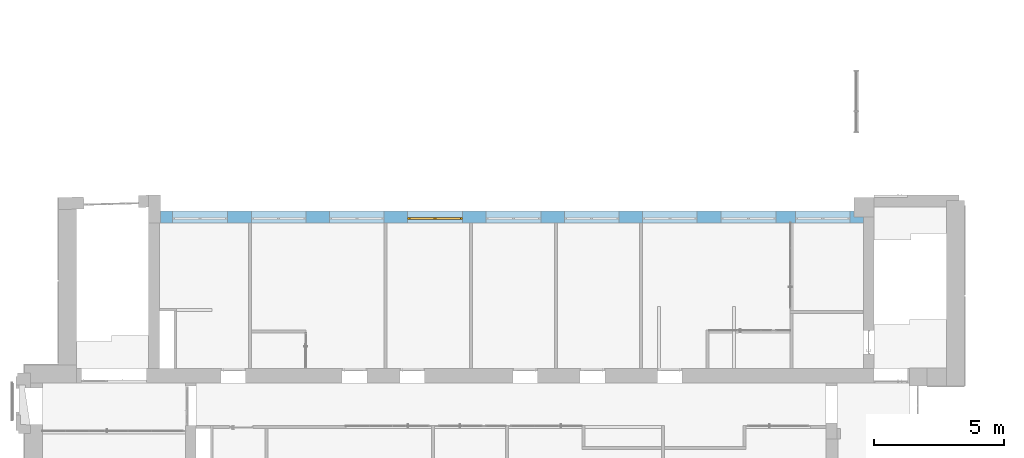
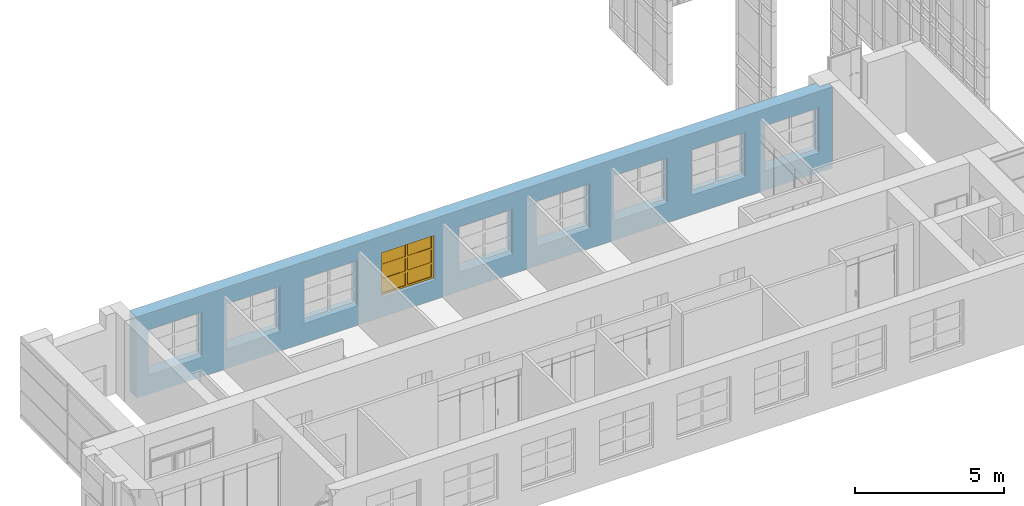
# One storey, part 62 of 73: 1 window, 9 openings, plus 1 element that does not belong to this part.
"""IFC2X3 building model written with IfcOpenShell, lengths in millimetres."""

from ifc_helpers import new_model, entity, si_unit, converted_unit, derived_unit, direction, frame, frame_2d, origin, origin_2d_with_axis, place, context, subcontext, project, spatial, polyline, rectangle, outline, extrude, face_set, surface_model, source, transform, mapped, material, material_list, layer, layer_set, layer_usage, type_object, type_shapes, element, fill, save


model = new_model("IFC2X3")

# Units and contexts
model_context = context("Model", 3, precision=0.01, world=origin(), true_north=direction((6.12303176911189e-17, 1.0)))
body_context = subcontext(model_context, "Body", "Model", "MODEL_VIEW")
ifc_project = project(units=[si_unit("LENGTHUNIT", "METRE", prefix="MILLI"), si_unit("AREAUNIT", "SQUARE_METRE"), si_unit("VOLUMEUNIT", "CUBIC_METRE"), converted_unit("PLANEANGLEUNIT", "DEGREE", entity("IfcRatioMeasure", 0.0174532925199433), si_unit("PLANEANGLEUNIT", "RADIAN"), dimensions=[0, 0, 0, 0, 0, 0, 0]), si_unit("MASSUNIT", "GRAM", prefix="KILO"), derived_unit("MASSDENSITYUNIT", [(si_unit("MASSUNIT", "GRAM", prefix="KILO"), 1), (si_unit("LENGTHUNIT", "METRE"), -3)]), si_unit("TIMEUNIT", "SECOND"), si_unit("FREQUENCYUNIT", "HERTZ"), si_unit("THERMODYNAMICTEMPERATUREUNIT", "DEGREE_CELSIUS"), derived_unit("THERMALTRANSMITTANCEUNIT", [(si_unit("MASSUNIT", "GRAM", prefix="KILO"), 1), (si_unit("THERMODYNAMICTEMPERATUREUNIT", "KELVIN"), -1), (si_unit("TIMEUNIT", "SECOND"), -3)]), derived_unit("VOLUMETRICFLOWRATEUNIT", [(si_unit("LENGTHUNIT", "METRE"), 3), (si_unit("TIMEUNIT", "SECOND"), -1)]), si_unit("ELECTRICCURRENTUNIT", "AMPERE"), si_unit("ELECTRICVOLTAGEUNIT", "VOLT"), si_unit("POWERUNIT", "WATT"), si_unit("FORCEUNIT", "NEWTON", prefix="KILO"), si_unit("ILLUMINANCEUNIT", "LUX"), si_unit("LUMINOUSFLUXUNIT", "LUMEN"), si_unit("LUMINOUSINTENSITYUNIT", "CANDELA"), derived_unit("USERDEFINED", [(si_unit("MASSUNIT", "GRAM", prefix="KILO"), -1), (si_unit("LENGTHUNIT", "METRE"), -2), (si_unit("TIMEUNIT", "SECOND"), 3), (si_unit("LUMINOUSFLUXUNIT", "LUMEN"), 1)]), derived_unit("LINEARVELOCITYUNIT", [(si_unit("LENGTHUNIT", "METRE"), 1), (si_unit("TIMEUNIT", "SECOND"), -1)]), si_unit("PRESSUREUNIT", "PASCAL"), derived_unit("USERDEFINED", [(si_unit("LENGTHUNIT", "METRE"), -2), (si_unit("MASSUNIT", "GRAM", prefix="KILO"), 1), (si_unit("TIMEUNIT", "SECOND"), -2)])], contexts=[model_context])

# Site, building, storey
site_placement = place(None, frame((-151.875543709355, 2715.0, 0.0)))
site = spatial("IfcSite", under=ifc_project, at=site_placement, Name="Surface", CompositionType="ELEMENT")
building_placement = place(site_placement, origin())
building = spatial("IfcBuilding", under=site, at=building_placement, CompositionType="ELEMENT")
storey_placement = place(building_placement, frame((0.0, 0.0, 6730.43000000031)))
storey = spatial("IfcBuildingStorey", under=building, at=storey_placement, Name="3 korrus", CompositionType="ELEMENT", Elevation=6730.43000000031)

# Wall, openings, window
ifc_material_1 = material(Name="Brick, Common")
ifc_layer_1 = layer(ifc_material_1, 440.0)
ifc_material_2 = material(Name="__Kips GN13_tava")
ifc_layer_2 = layer(ifc_material_2, 20.0)
ifc_layer_set = layer_set([ifc_layer_1, ifc_layer_2], Name="Basic Wall:VS-1")
ifc_layer_usage = layer_usage(ifc_layer_set, "AXIS2", "POSITIVE", -230.0)
wall_type = type_object("IfcWallType", Name="Basic Wall:VS-1", PredefinedType="STANDARD", material=ifc_layer_set)
wall_placement = place(storey_placement, frame((31972.6162682, 12380.0, 0.00203353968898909), z_axis=(0.0, 0.0, 1.0), x_axis=(-1.0, 0.0, 0.0)))
wall = element("IfcWallStandardCase", 1, at=wall_placement, inside=storey, type_object=wall_type, material=ifc_layer_usage, Name="SEIN - 005", ObjectType="Basic Wall:VS-1", context=body_context, shape_type="SweptSolid", body=[
    extrude(outline(polyline([(26972.5418693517, -230.0), (26972.5418693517, 230.0), (0.0, 230.0), (0.0, 0.0), (370.0, 0.0), (370.0, -230.0), (26972.5418693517, -230.0)])), origin(), (0.0, 0.0, 1.0), 3329.56796646),
])
opening_1_placement = place(wall_placement, frame((31972.6162682, 12380.0, -0.00203353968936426), z_axis=(0.0, 0.0, 1.0), x_axis=(-1.0, 0.0, 0.0)))
element("IfcOpeningElement", 2, at=opening_1_placement, cuts=wall, Name="SEIN - 005", ObjectType="Opening", context=body_context, shape_type="SweptSolid", body=[
    extrude(rectangle(XDim=1850.0, YDim=2100.0, at=frame_2d((0.0, -5.6843418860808e-13), x_axis=(1.0, 0.0))), frame((6512.84934801, 13077.9, 1725.00203353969), z_axis=(0.0, -1.0, 0.0), x_axis=(0.0, 0.0, 1.0)), (0.0, 0.0, 1.0), 1393.8),
])
opening_2_placement = place(wall_placement, frame((31972.6162682, 12380.0, -0.00203353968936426), z_axis=(0.0, 0.0, 1.0), x_axis=(-1.0, 0.0, 0.0)))
element("IfcOpeningElement", 3, at=opening_2_placement, cuts=wall, Name="SEIN - 005", ObjectType="Opening", context=body_context, shape_type="SweptSolid", body=[
    extrude(rectangle(XDim=1850.0, YDim=2100.0, at=origin_2d_with_axis()), frame((9532.84934801, 13077.9, 1725.00203353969), z_axis=(0.0, -1.0, 0.0), x_axis=(0.0, 0.0, 1.0)), (0.0, 0.0, 1.0), 1393.8),
])
opening_3_placement = place(wall_placement, frame((31972.6162682, 12380.0, -0.00203353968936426), z_axis=(0.0, 0.0, 1.0), x_axis=(-1.0, 0.0, 0.0)))
element("IfcOpeningElement", 4, at=opening_3_placement, cuts=wall, Name="SEIN - 005", ObjectType="Opening", context=body_context, shape_type="SweptSolid", body=[
    extrude(rectangle(XDim=1850.0, YDim=2100.0, at=frame_2d((0.0, -1.02318153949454e-12), x_axis=(1.0, 0.0))), frame((12532.84934801, 13077.9, 1725.00203353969), z_axis=(0.0, -1.0, 0.0), x_axis=(0.0, 0.0, 1.0)), (0.0, 0.0, 1.0), 1393.8),
])
opening_4_placement = place(wall_placement, frame((31972.6162682, 12380.0, -0.00203353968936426), z_axis=(0.0, 0.0, 1.0), x_axis=(-1.0, 0.0, 0.0)))
opening_4 = element("IfcOpeningElement", 5, at=opening_4_placement, cuts=wall, Name="SEIN - 005", ObjectType="Opening", context=body_context, shape_type="SweptSolid", body=[
    extrude(rectangle(XDim=1850.0, YDim=2100.0, at=origin_2d_with_axis()), frame((15532.849348, 13077.9, 1725.00203353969), z_axis=(0.0, -1.0, 0.0), x_axis=(0.0, 0.0, 1.0)), (0.0, 0.0, 1.0), 1393.8),
])
opening_5_placement = place(wall_placement, frame((31972.6162682, 12380.0, -0.00203353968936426), z_axis=(0.0, 0.0, 1.0), x_axis=(-1.0, 0.0, 0.0)))
element("IfcOpeningElement", 6, at=opening_5_placement, cuts=wall, Name="SEIN - 005", ObjectType="Opening", context=body_context, shape_type="SweptSolid", body=[
    extrude(rectangle(XDim=1850.0, YDim=2100.0, at=origin_2d_with_axis()), frame((18542.849348, 13077.9, 1725.00203353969), z_axis=(0.0, -1.0, 0.0), x_axis=(0.0, 0.0, 1.0)), (0.0, 0.0, 1.0), 1393.8),
])
opening_6_placement = place(wall_placement, frame((31972.6162682, 12380.0, -0.00203353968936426), z_axis=(0.0, 0.0, 1.0), x_axis=(-1.0, 0.0, 0.0)))
element("IfcOpeningElement", 7, at=opening_6_placement, cuts=wall, Name="SEIN - 005", ObjectType="Opening", context=body_context, shape_type="SweptSolid", body=[
    extrude(rectangle(XDim=1850.0, YDim=2100.0, at=origin_2d_with_axis()), frame((21543.0530903, 13077.9, 1725.00203353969), z_axis=(0.0, -1.0, 0.0), x_axis=(0.0, 0.0, 1.0)), (0.0, 0.0, 1.0), 1393.8),
])
opening_7_placement = place(wall_placement, frame((31972.6162682, 12380.0, -0.00203353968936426), z_axis=(0.0, 0.0, 1.0), x_axis=(-1.0, 0.0, 0.0)))
element("IfcOpeningElement", 8, at=opening_7_placement, cuts=wall, Name="SEIN - 005", ObjectType="Opening", context=body_context, shape_type="SweptSolid", body=[
    extrude(rectangle(XDim=1850.0, YDim=2100.0, at=origin_2d_with_axis()), frame((24543.0530903, 13077.9, 1725.00203353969), z_axis=(0.0, -1.0, 0.0), x_axis=(0.0, 0.0, 1.0)), (0.0, 0.0, 1.0), 1393.8),
])
opening_8_placement = place(wall_placement, frame((31972.6162682, 12380.0, -0.00203353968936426), z_axis=(0.0, 0.0, 1.0), x_axis=(-1.0, 0.0, 0.0)))
element("IfcOpeningElement", 9, at=opening_8_placement, cuts=wall, Name="SEIN - 005", ObjectType="Opening", context=body_context, shape_type="SweptSolid", body=[
    extrude(rectangle(XDim=1850.0, YDim=2100.0, at=origin_2d_with_axis()), frame((27563.0530903, 13077.9, 1725.00203353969), z_axis=(0.0, -1.0, 0.0), x_axis=(0.0, 0.0, 1.0)), (0.0, 0.0, 1.0), 1393.8),
])
opening_9_placement = place(wall_placement, frame((31972.6162682, 12380.0, -0.00203353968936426), z_axis=(0.0, 0.0, 1.0), x_axis=(-1.0, 0.0, 0.0)))
element("IfcOpeningElement", 10, at=opening_9_placement, cuts=wall, Name="SEIN - 005", ObjectType="Opening", context=body_context, shape_type="SweptSolid", body=[
    extrude(rectangle(XDim=1850.0, YDim=2100.0, at=origin_2d_with_axis()), frame((30412.5729235, 13077.9, 1725.00203353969), z_axis=(0.0, -1.0, 0.0), x_axis=(0.0, 0.0, 1.0)), (0.0, 0.0, 1.0), 1393.8),
])
ifc_material_3 = material(Name="Paint - Titanium White")
ifc_material_4 = material(Name="Paint - Dark Gray")
ifc_material_5 = material(Name="Glass - Clear Fast")
ifc_material_list_1 = material_list([ifc_material_3, ifc_material_4, ifc_material_5])
ifc_material_list_2 = material_list([ifc_material_3, ifc_material_4, ifc_material_5])
window_style = type_object("IfcWindowStyle", Name="Aken_1850x2100", ConstructionType="NOTDEFINED", OperationType="DOUBLE_PANEL_VERTICAL", ParameterTakesPrecedence=False, Sizeable=False, material=ifc_material_list_2)
shared_shape = source(origin(), body_context, "Body", "SurfaceModel", [
    surface_model("IfcFaceBasedSurfaceModel", [(80.0, -665.9, 1770.0), (80.0, -620.9, 1770.0), (0.0, -620.9, 1770.0), (0.0, -665.9, 1770.0), (80.0, -665.9, 80.0), (80.0, -620.9, 80.0), (80.0, -620.9, 1770.0), (80.0, -665.9, 1770.0), (80.0, -620.9, 1770.0), (80.0, -620.9, 80.0), (0.0, -620.9, 80.0), (0.0, -620.9, 1770.0), (0.0, -665.9, 1770.0), (0.0, -620.9, 1770.0), (0.0, -620.9, 80.0), (0.0, -665.9, 80.0), (80.0, -665.9, 1770.0), (0.0, -665.9, 1770.0), (0.0, -665.9, 80.0), (80.0, -665.9, 80.0), (0.0, -665.9, 80.0), (0.0, -620.9, 80.0), (80.0, -620.9, 80.0), (80.0, -665.9, 80.0), (2020.0, -665.9, 80.0), (2020.0, -620.9, 80.0), (2100.0, -620.9, 80.0), (2100.0, -665.9, 80.0), (2020.0, -665.9, 1770.0), (2020.0, -620.9, 1770.0), (2020.0, -620.9, 80.0), (2020.0, -665.9, 80.0), (2020.0, -620.9, 80.0), (2020.0, -620.9, 1770.0), (2100.0, -620.9, 1770.0), (2100.0, -620.9, 80.0), (2100.0, -665.9, 80.0), (2100.0, -620.9, 80.0), (2100.0, -620.9, 1770.0), (2100.0, -665.9, 1770.0), (2020.0, -665.9, 80.0), (2100.0, -665.9, 80.0), (2100.0, -665.9, 1770.0), (2020.0, -665.9, 1770.0), (2100.0, -665.9, 1770.0), (2100.0, -620.9, 1770.0), (2020.0, -620.9, 1770.0), (2020.0, -665.9, 1770.0), (1010.0, -665.9, 80.0), (1010.0, -620.9, 80.0), (1090.0, -620.9, 80.0), (1090.0, -665.9, 80.0), (1010.0, -665.9, 1770.0), (1010.0, -620.9, 1770.0), (1010.0, -620.9, 80.0), (1010.0, -665.9, 80.0), (1010.0, -620.9, 80.0), (1010.0, -620.9, 1770.0), (1090.0, -620.9, 1770.0), (1090.0, -620.9, 80.0), (1090.0, -665.9, 80.0), (1090.0, -620.9, 80.0), (1090.0, -620.9, 1770.0), (1090.0, -665.9, 1770.0), (1010.0, -665.9, 80.0), (1090.0, -665.9, 80.0), (1090.0, -665.9, 1770.0), (1010.0, -665.9, 1770.0), (1090.0, -665.9, 1770.0), (1090.0, -620.9, 1770.0), (1010.0, -620.9, 1770.0), (1010.0, -665.9, 1770.0), (80.0, -665.9, 80.0), (80.0, -620.9, 80.0), (0.0, -620.9, 80.0), (0.0, -665.9, 80.0), (1010.0, -665.9, 80.0), (1010.0, -620.9, 80.0), (80.0, -620.9, 80.0), (80.0, -665.9, 80.0), (80.0, -620.9, 80.0), (1010.0, -620.9, 80.0), (1090.0, -620.9, 80.0), (2020.0, -620.9, 80.0), (2100.0, -620.9, 80.0), (2100.0, -620.9, 0.0), (0.0, -620.9, 0.0), (0.0, -620.9, 80.0), (0.0, -665.9, 80.0), (0.0, -620.9, 80.0), (0.0, -620.9, 0.0), (0.0, -665.9, 0.0), (80.0, -665.9, 80.0), (0.0, -665.9, 80.0), (0.0, -665.9, 0.0), (2100.0, -665.9, 0.0), (2100.0, -665.9, 80.0), (2020.0, -665.9, 80.0), (1090.0, -665.9, 80.0), (1010.0, -665.9, 80.0), (1090.0, -665.9, 80.0), (1090.0, -620.9, 80.0), (1010.0, -620.9, 80.0), (1010.0, -665.9, 80.0), (2020.0, -665.9, 80.0), (2020.0, -620.9, 80.0), (1090.0, -620.9, 80.0), (1090.0, -665.9, 80.0), (2100.0, -665.9, 80.0), (2100.0, -620.9, 80.0), (2020.0, -620.9, 80.0), (2020.0, -665.9, 80.0), (2100.0, -665.9, 0.0), (2100.0, -620.9, 0.0), (2100.0, -620.9, 80.0), (2100.0, -665.9, 80.0), (0.0, -665.9, 0.0), (0.0, -620.9, 0.0), (2100.0, -620.9, 0.0), (2100.0, -665.9, 0.0), (1010.0, -665.9, 1770.0), (1010.0, -620.9, 1770.0), (1090.0, -620.9, 1770.0), (1090.0, -665.9, 1770.0), (80.0, -665.9, 1770.0), (80.0, -620.9, 1770.0), (1010.0, -620.9, 1770.0), (1010.0, -665.9, 1770.0), (1010.0, -620.9, 1770.0), (80.0, -620.9, 1770.0), (0.0, -620.9, 1770.0), (0.0, -620.9, 1850.0), (2100.0, -620.9, 1850.0), (2100.0, -620.9, 1770.0), (2020.0, -620.9, 1770.0), (1090.0, -620.9, 1770.0), (1090.0, -665.9, 1770.0), (1090.0, -620.9, 1770.0), (2020.0, -620.9, 1770.0), (2020.0, -665.9, 1770.0), (1010.0, -665.9, 1770.0), (1090.0, -665.9, 1770.0), (2020.0, -665.9, 1770.0), (2100.0, -665.9, 1770.0), (2100.0, -665.9, 1850.0), (0.0, -665.9, 1850.0), (0.0, -665.9, 1770.0), (80.0, -665.9, 1770.0), (0.0, -665.9, 1770.0), (0.0, -620.9, 1770.0), (80.0, -620.9, 1770.0), (80.0, -665.9, 1770.0), (0.0, -665.9, 1850.0), (0.0, -620.9, 1850.0), (0.0, -620.9, 1770.0), (0.0, -665.9, 1770.0), (2100.0, -665.9, 1850.0), (2100.0, -620.9, 1850.0), (0.0, -620.9, 1850.0), (0.0, -665.9, 1850.0), (2100.0, -665.9, 1770.0), (2100.0, -620.9, 1770.0), (2100.0, -620.9, 1850.0), (2100.0, -665.9, 1850.0), (2020.0, -665.9, 1770.0), (2020.0, -620.9, 1770.0), (2100.0, -620.9, 1770.0), (2100.0, -665.9, 1770.0), (80.0, -640.9, 590.0), (80.0, -630.9, 590.0), (1010.0, -630.9, 590.0), (1010.0, -640.9, 590.0), (80.0, -640.9, 670.0), (80.0, -630.9, 670.0), (80.0, -630.9, 590.0), (80.0, -640.9, 590.0), (80.0, -630.9, 590.0), (80.0, -630.9, 670.0), (1010.0, -630.9, 670.0), (1010.0, -630.9, 590.0), (1010.0, -640.9, 590.0), (1010.0, -630.9, 590.0), (1010.0, -630.9, 670.0), (1010.0, -640.9, 670.0), (80.0, -640.9, 590.0), (1010.0, -640.9, 590.0), (1010.0, -640.9, 670.0), (80.0, -640.9, 670.0), (1010.0, -640.9, 670.0), (1010.0, -630.9, 670.0), (80.0, -630.9, 670.0), (80.0, -640.9, 670.0), (80.0, -640.9, 1180.0), (80.0, -630.9, 1180.0), (1010.0, -630.9, 1180.0), (1010.0, -640.9, 1180.0), (80.0, -640.9, 1260.0), (80.0, -630.9, 1260.0), (80.0, -630.9, 1180.0), (80.0, -640.9, 1180.0), (80.0, -630.9, 1180.0), (80.0, -630.9, 1260.0), (1010.0, -630.9, 1260.0), (1010.0, -630.9, 1180.0), (1010.0, -640.9, 1180.0), (1010.0, -630.9, 1180.0), (1010.0, -630.9, 1260.0), (1010.0, -640.9, 1260.0), (80.0, -640.9, 1180.0), (1010.0, -640.9, 1180.0), (1010.0, -640.9, 1260.0), (80.0, -640.9, 1260.0), (1010.0, -640.9, 1260.0), (1010.0, -630.9, 1260.0), (80.0, -630.9, 1260.0), (80.0, -640.9, 1260.0), (1090.0, -640.9, 590.0), (1090.0, -630.9, 590.0), (2020.0, -630.9, 590.0), (2020.0, -640.9, 590.0), (1090.0, -640.9, 670.0), (1090.0, -630.9, 670.0), (1090.0, -630.9, 590.0), (1090.0, -640.9, 590.0), (1090.0, -630.9, 590.0), (1090.0, -630.9, 670.0), (2020.0, -630.9, 670.0), (2020.0, -630.9, 590.0), (2020.0, -640.9, 590.0), (2020.0, -630.9, 590.0), (2020.0, -630.9, 670.0), (2020.0, -640.9, 670.0), (1090.0, -640.9, 590.0), (2020.0, -640.9, 590.0), (2020.0, -640.9, 670.0), (1090.0, -640.9, 670.0), (2020.0, -640.9, 670.0), (2020.0, -630.9, 670.0), (1090.0, -630.9, 670.0), (1090.0, -640.9, 670.0), (1090.0, -640.9, 1180.0), (1090.0, -630.9, 1180.0), (2020.0, -630.9, 1180.0), (2020.0, -640.9, 1180.0), (1090.0, -640.9, 1260.0), (1090.0, -630.9, 1260.0), (1090.0, -630.9, 1180.0), (1090.0, -640.9, 1180.0), (1090.0, -630.9, 1180.0), (1090.0, -630.9, 1260.0), (2020.0, -630.9, 1260.0), (2020.0, -630.9, 1180.0), (2020.0, -640.9, 1180.0), (2020.0, -630.9, 1180.0), (2020.0, -630.9, 1260.0), (2020.0, -640.9, 1260.0), (1090.0, -640.9, 1180.0), (2020.0, -640.9, 1180.0), (2020.0, -640.9, 1260.0), (1090.0, -640.9, 1260.0), (2020.0, -640.9, 1260.0), (2020.0, -630.9, 1260.0), (1090.0, -630.9, 1260.0), (1090.0, -640.9, 1260.0)], [face_set([[[0, 1, 2, 3]]]), face_set([[[4, 5, 6, 7]]]), face_set([[[8, 9, 10, 11]]]), face_set([[[12, 13, 14, 15]]]), face_set([[[16, 17, 18, 19]]]), face_set([[[20, 21, 22, 23]]]), face_set([[[24, 25, 26, 27]]]), face_set([[[28, 29, 30, 31]]]), face_set([[[32, 33, 34, 35]]]), face_set([[[36, 37, 38, 39]]]), face_set([[[40, 41, 42, 43]]]), face_set([[[44, 45, 46, 47]]]), face_set([[[48, 49, 50, 51]]]), face_set([[[52, 53, 54, 55]]]), face_set([[[56, 57, 58, 59]]]), face_set([[[60, 61, 62, 63]]]), face_set([[[64, 65, 66, 67]]]), face_set([[[68, 69, 70, 71]]]), face_set([[[72, 73, 74, 75]]]), face_set([[[76, 77, 78, 79]]]), face_set([[[80, 81, 82, 83, 84, 85, 86, 87]]]), face_set([[[88, 89, 90, 91]]]), face_set([[[92, 93, 94, 95, 96, 97, 98, 99]]]), face_set([[[100, 101, 102, 103]]]), face_set([[[104, 105, 106, 107]]]), face_set([[[108, 109, 110, 111]]]), face_set([[[112, 113, 114, 115]]]), face_set([[[116, 117, 118, 119]]]), face_set([[[120, 121, 122, 123]]]), face_set([[[124, 125, 126, 127]]]), face_set([[[128, 129, 130, 131, 132, 133, 134, 135]]]), face_set([[[136, 137, 138, 139]]]), face_set([[[140, 141, 142, 143, 144, 145, 146, 147]]]), face_set([[[148, 149, 150, 151]]]), face_set([[[152, 153, 154, 155]]]), face_set([[[156, 157, 158, 159]]]), face_set([[[160, 161, 162, 163]]]), face_set([[[164, 165, 166, 167]]]), face_set([[[168, 169, 170, 171]]]), face_set([[[172, 173, 174, 175]]]), face_set([[[176, 177, 178, 179]]]), face_set([[[180, 181, 182, 183]]]), face_set([[[184, 185, 186, 187]]]), face_set([[[188, 189, 190, 191]]]), face_set([[[192, 193, 194, 195]]]), face_set([[[196, 197, 198, 199]]]), face_set([[[200, 201, 202, 203]]]), face_set([[[204, 205, 206, 207]]]), face_set([[[208, 209, 210, 211]]]), face_set([[[212, 213, 214, 215]]]), face_set([[[216, 217, 218, 219]]]), face_set([[[220, 221, 222, 223]]]), face_set([[[224, 225, 226, 227]]]), face_set([[[228, 229, 230, 231]]]), face_set([[[232, 233, 234, 235]]]), face_set([[[236, 237, 238, 239]]]), face_set([[[240, 241, 242, 243]]]), face_set([[[244, 245, 246, 247]]]), face_set([[[248, 249, 250, 251]]]), face_set([[[252, 253, 254, 255]]]), face_set([[[256, 257, 258, 259]]]), face_set([[[260, 261, 262, 263]]])]),
    surface_model("IfcFaceBasedSurfaceModel", [(80.0, -620.9, 1770.0), (80.0, -595.9, 1770.0), (0.0, -595.9, 1770.0), (0.0, -620.9, 1770.0), (80.0, -620.9, 80.0), (80.0, -595.9, 80.0), (80.0, -595.9, 1770.0), (80.0, -620.9, 1770.0), (80.0, -595.9, 1770.0), (80.0, -595.9, 80.0), (0.0, -595.9, 80.0), (0.0, -595.9, 1770.0), (0.0, -620.9, 1770.0), (0.0, -595.9, 1770.0), (0.0, -595.9, 80.0), (0.0, -620.9, 80.0), (80.0, -620.9, 1770.0), (0.0, -620.9, 1770.0), (0.0, -620.9, 80.0), (80.0, -620.9, 80.0), (0.0, -620.9, 80.0), (0.0, -595.9, 80.0), (80.0, -595.9, 80.0), (80.0, -620.9, 80.0), (2020.0, -620.9, 80.0), (2020.0, -595.9, 80.0), (2100.0, -595.9, 80.0), (2100.0, -620.9, 80.0), (2020.0, -620.9, 1770.0), (2020.0, -595.9, 1770.0), (2020.0, -595.9, 80.0), (2020.0, -620.9, 80.0), (2020.0, -595.9, 80.0), (2020.0, -595.9, 1770.0), (2100.0, -595.9, 1770.0), (2100.0, -595.9, 80.0), (2100.0, -620.9, 80.0), (2100.0, -595.9, 80.0), (2100.0, -595.9, 1770.0), (2100.0, -620.9, 1770.0), (2020.0, -620.9, 80.0), (2100.0, -620.9, 80.0), (2100.0, -620.9, 1770.0), (2020.0, -620.9, 1770.0), (2100.0, -620.9, 1770.0), (2100.0, -595.9, 1770.0), (2020.0, -595.9, 1770.0), (2020.0, -620.9, 1770.0), (1010.0, -620.9, 80.0), (1010.0, -595.9, 80.0), (1090.0, -595.9, 80.0), (1090.0, -620.9, 80.0), (1010.0, -620.9, 1770.0), (1010.0, -595.9, 1770.0), (1010.0, -595.9, 80.0), (1010.0, -620.9, 80.0), (1010.0, -595.9, 80.0), (1010.0, -595.9, 1770.0), (1090.0, -595.9, 1770.0), (1090.0, -595.9, 80.0), (1090.0, -620.9, 80.0), (1090.0, -595.9, 80.0), (1090.0, -595.9, 1770.0), (1090.0, -620.9, 1770.0), (1010.0, -620.9, 80.0), (1090.0, -620.9, 80.0), (1090.0, -620.9, 1770.0), (1010.0, -620.9, 1770.0), (1090.0, -620.9, 1770.0), (1090.0, -595.9, 1770.0), (1010.0, -595.9, 1770.0), (1010.0, -620.9, 1770.0), (80.0, -620.9, 80.0), (80.0, -595.9, 80.0), (0.0, -595.9, 80.0), (0.0, -620.9, 80.0), (1010.0, -620.9, 80.0), (1010.0, -595.9, 80.0), (80.0, -595.9, 80.0), (80.0, -620.9, 80.0), (80.0, -595.9, 80.0), (1010.0, -595.9, 80.0), (1090.0, -595.9, 80.0), (2020.0, -595.9, 80.0), (2100.0, -595.9, 80.0), (2100.0, -595.9, 0.0), (0.0, -595.9, 0.0), (0.0, -595.9, 80.0), (0.0, -620.9, 80.0), (0.0, -595.9, 80.0), (0.0, -595.9, 0.0), (0.0, -620.9, 0.0), (80.0, -620.9, 80.0), (0.0, -620.9, 80.0), (0.0, -620.9, 0.0), (2100.0, -620.9, 0.0), (2100.0, -620.9, 80.0), (2020.0, -620.9, 80.0), (1090.0, -620.9, 80.0), (1010.0, -620.9, 80.0), (1090.0, -620.9, 80.0), (1090.0, -595.9, 80.0), (1010.0, -595.9, 80.0), (1010.0, -620.9, 80.0), (2020.0, -620.9, 80.0), (2020.0, -595.9, 80.0), (1090.0, -595.9, 80.0), (1090.0, -620.9, 80.0), (2100.0, -620.9, 80.0), (2100.0, -595.9, 80.0), (2020.0, -595.9, 80.0), (2020.0, -620.9, 80.0), (2100.0, -620.9, 0.0), (2100.0, -595.9, 0.0), (2100.0, -595.9, 80.0), (2100.0, -620.9, 80.0), (0.0, -620.9, 0.0), (0.0, -595.9, 0.0), (2100.0, -595.9, 0.0), (2100.0, -620.9, 0.0), (1010.0, -620.9, 1770.0), (1010.0, -595.9, 1770.0), (1090.0, -595.9, 1770.0), (1090.0, -620.9, 1770.0), (80.0, -620.9, 1770.0), (80.0, -595.9, 1770.0), (1010.0, -595.9, 1770.0), (1010.0, -620.9, 1770.0), (1010.0, -595.9, 1770.0), (80.0, -595.9, 1770.0), (0.0, -595.9, 1770.0), (0.0, -595.9, 1850.0), (2100.0, -595.9, 1850.0), (2100.0, -595.9, 1770.0), (2020.0, -595.9, 1770.0), (1090.0, -595.9, 1770.0), (1090.0, -620.9, 1770.0), (1090.0, -595.9, 1770.0), (2020.0, -595.9, 1770.0), (2020.0, -620.9, 1770.0), (1010.0, -620.9, 1770.0), (1090.0, -620.9, 1770.0), (2020.0, -620.9, 1770.0), (2100.0, -620.9, 1770.0), (2100.0, -620.9, 1850.0), (0.0, -620.9, 1850.0), (0.0, -620.9, 1770.0), (80.0, -620.9, 1770.0), (0.0, -620.9, 1770.0), (0.0, -595.9, 1770.0), (80.0, -595.9, 1770.0), (80.0, -620.9, 1770.0), (0.0, -620.9, 1850.0), (0.0, -595.9, 1850.0), (0.0, -595.9, 1770.0), (0.0, -620.9, 1770.0), (2100.0, -620.9, 1850.0), (2100.0, -595.9, 1850.0), (0.0, -595.9, 1850.0), (0.0, -620.9, 1850.0), (2100.0, -620.9, 1770.0), (2100.0, -595.9, 1770.0), (2100.0, -595.9, 1850.0), (2100.0, -620.9, 1850.0), (2020.0, -620.9, 1770.0), (2020.0, -595.9, 1770.0), (2100.0, -595.9, 1770.0), (2100.0, -620.9, 1770.0), (80.0, -630.9, 590.0), (80.0, -600.9, 590.0), (1010.0, -600.9, 590.0), (1010.0, -630.9, 590.0), (80.0, -630.9, 670.0), (80.0, -600.9, 670.0), (80.0, -600.9, 590.0), (80.0, -630.9, 590.0), (80.0, -600.9, 590.0), (80.0, -600.9, 670.0), (1010.0, -600.9, 670.0), (1010.0, -600.9, 590.0), (1010.0, -630.9, 590.0), (1010.0, -600.9, 590.0), (1010.0, -600.9, 670.0), (1010.0, -630.9, 670.0), (80.0, -630.9, 590.0), (1010.0, -630.9, 590.0), (1010.0, -630.9, 670.0), (80.0, -630.9, 670.0), (1010.0, -630.9, 670.0), (1010.0, -600.9, 670.0), (80.0, -600.9, 670.0), (80.0, -630.9, 670.0), (80.0, -630.9, 1180.0), (80.0, -600.9, 1180.0), (1010.0, -600.9, 1180.0), (1010.0, -630.9, 1180.0), (80.0, -630.9, 1260.0), (80.0, -600.9, 1260.0), (80.0, -600.9, 1180.0), (80.0, -630.9, 1180.0), (80.0, -600.9, 1180.0), (80.0, -600.9, 1260.0), (1010.0, -600.9, 1260.0), (1010.0, -600.9, 1180.0), (1010.0, -630.9, 1180.0), (1010.0, -600.9, 1180.0), (1010.0, -600.9, 1260.0), (1010.0, -630.9, 1260.0), (80.0, -630.9, 1180.0), (1010.0, -630.9, 1180.0), (1010.0, -630.9, 1260.0), (80.0, -630.9, 1260.0), (1010.0, -630.9, 1260.0), (1010.0, -600.9, 1260.0), (80.0, -600.9, 1260.0), (80.0, -630.9, 1260.0), (1090.0, -630.9, 590.0), (1090.0, -600.9, 590.0), (2020.0, -600.9, 590.0), (2020.0, -630.9, 590.0), (1090.0, -630.9, 670.0), (1090.0, -600.9, 670.0), (1090.0, -600.9, 590.0), (1090.0, -630.9, 590.0), (1090.0, -600.9, 590.0), (1090.0, -600.9, 670.0), (2020.0, -600.9, 670.0), (2020.0, -600.9, 590.0), (2020.0, -630.9, 590.0), (2020.0, -600.9, 590.0), (2020.0, -600.9, 670.0), (2020.0, -630.9, 670.0), (1090.0, -630.9, 590.0), (2020.0, -630.9, 590.0), (2020.0, -630.9, 670.0), (1090.0, -630.9, 670.0), (2020.0, -630.9, 670.0), (2020.0, -600.9, 670.0), (1090.0, -600.9, 670.0), (1090.0, -630.9, 670.0), (1090.0, -630.9, 1180.0), (1090.0, -600.9, 1180.0), (2020.0, -600.9, 1180.0), (2020.0, -630.9, 1180.0), (1090.0, -630.9, 1260.0), (1090.0, -600.9, 1260.0), (1090.0, -600.9, 1180.0), (1090.0, -630.9, 1180.0), (1090.0, -600.9, 1180.0), (1090.0, -600.9, 1260.0), (2020.0, -600.9, 1260.0), (2020.0, -600.9, 1180.0), (2020.0, -630.9, 1180.0), (2020.0, -600.9, 1180.0), (2020.0, -600.9, 1260.0), (2020.0, -630.9, 1260.0), (1090.0, -630.9, 1180.0), (2020.0, -630.9, 1180.0), (2020.0, -630.9, 1260.0), (1090.0, -630.9, 1260.0), (2020.0, -630.9, 1260.0), (2020.0, -600.9, 1260.0), (1090.0, -600.9, 1260.0), (1090.0, -630.9, 1260.0)], [face_set([[[0, 1, 2, 3]]]), face_set([[[4, 5, 6, 7]]]), face_set([[[8, 9, 10, 11]]]), face_set([[[12, 13, 14, 15]]]), face_set([[[16, 17, 18, 19]]]), face_set([[[20, 21, 22, 23]]]), face_set([[[24, 25, 26, 27]]]), face_set([[[28, 29, 30, 31]]]), face_set([[[32, 33, 34, 35]]]), face_set([[[36, 37, 38, 39]]]), face_set([[[40, 41, 42, 43]]]), face_set([[[44, 45, 46, 47]]]), face_set([[[48, 49, 50, 51]]]), face_set([[[52, 53, 54, 55]]]), face_set([[[56, 57, 58, 59]]]), face_set([[[60, 61, 62, 63]]]), face_set([[[64, 65, 66, 67]]]), face_set([[[68, 69, 70, 71]]]), face_set([[[72, 73, 74, 75]]]), face_set([[[76, 77, 78, 79]]]), face_set([[[80, 81, 82, 83, 84, 85, 86, 87]]]), face_set([[[88, 89, 90, 91]]]), face_set([[[92, 93, 94, 95, 96, 97, 98, 99]]]), face_set([[[100, 101, 102, 103]]]), face_set([[[104, 105, 106, 107]]]), face_set([[[108, 109, 110, 111]]]), face_set([[[112, 113, 114, 115]]]), face_set([[[116, 117, 118, 119]]]), face_set([[[120, 121, 122, 123]]]), face_set([[[124, 125, 126, 127]]]), face_set([[[128, 129, 130, 131, 132, 133, 134, 135]]]), face_set([[[136, 137, 138, 139]]]), face_set([[[140, 141, 142, 143, 144, 145, 146, 147]]]), face_set([[[148, 149, 150, 151]]]), face_set([[[152, 153, 154, 155]]]), face_set([[[156, 157, 158, 159]]]), face_set([[[160, 161, 162, 163]]]), face_set([[[164, 165, 166, 167]]]), face_set([[[168, 169, 170, 171]]]), face_set([[[172, 173, 174, 175]]]), face_set([[[176, 177, 178, 179]]]), face_set([[[180, 181, 182, 183]]]), face_set([[[184, 185, 186, 187]]]), face_set([[[188, 189, 190, 191]]]), face_set([[[192, 193, 194, 195]]]), face_set([[[196, 197, 198, 199]]]), face_set([[[200, 201, 202, 203]]]), face_set([[[204, 205, 206, 207]]]), face_set([[[208, 209, 210, 211]]]), face_set([[[212, 213, 214, 215]]]), face_set([[[216, 217, 218, 219]]]), face_set([[[220, 221, 222, 223]]]), face_set([[[224, 225, 226, 227]]]), face_set([[[228, 229, 230, 231]]]), face_set([[[232, 233, 234, 235]]]), face_set([[[236, 237, 238, 239]]]), face_set([[[240, 241, 242, 243]]]), face_set([[[244, 245, 246, 247]]]), face_set([[[248, 249, 250, 251]]]), face_set([[[252, 253, 254, 255]]]), face_set([[[256, 257, 258, 259]]]), face_set([[[260, 261, 262, 263]]])]),
    surface_model("IfcFaceBasedSurfaceModel", [(1010.0, -630.9, 80.0), (1010.0, -630.9, 590.0), (80.0, -630.9, 590.0), (80.0, -630.9, 80.0), (1010.0, -610.9, 80.0), (80.0, -610.9, 80.0), (80.0, -610.9, 590.0), (1010.0, -610.9, 590.0), (1010.0, -630.9, 670.0), (1010.0, -630.9, 1180.0), (80.0, -630.9, 1180.0), (80.0, -630.9, 670.0), (1010.0, -610.9, 670.0), (80.0, -610.9, 670.0), (80.0, -610.9, 1180.0), (1010.0, -610.9, 1180.0), (1010.0, -630.9, 1260.0), (1010.0, -630.9, 1770.0), (80.0, -630.9, 1770.0), (80.0, -630.9, 1260.0), (1010.0, -610.9, 1260.0), (80.0, -610.9, 1260.0), (80.0, -610.9, 1770.0), (1010.0, -610.9, 1770.0), (2020.0, -630.9, 80.0), (2020.0, -630.9, 590.0), (1090.0, -630.9, 590.0), (1090.0, -630.9, 80.0), (2020.0, -610.9, 80.0), (1090.0, -610.9, 80.0), (1090.0, -610.9, 590.0), (2020.0, -610.9, 590.0), (2020.0, -630.9, 670.0), (2020.0, -630.9, 1180.0), (1090.0, -630.9, 1180.0), (1090.0, -630.9, 670.0), (2020.0, -610.9, 670.0), (1090.0, -610.9, 670.0), (1090.0, -610.9, 1180.0), (2020.0, -610.9, 1180.0), (2020.0, -630.9, 1260.0), (2020.0, -630.9, 1770.0), (1090.0, -630.9, 1770.0), (1090.0, -630.9, 1260.0), (2020.0, -610.9, 1260.0), (1090.0, -610.9, 1260.0), (1090.0, -610.9, 1770.0), (2020.0, -610.9, 1770.0)], [face_set([[[0, 1, 2, 3]]]), face_set([[[4, 5, 6, 7]]]), face_set([[[8, 9, 10, 11]]]), face_set([[[12, 13, 14, 15]]]), face_set([[[16, 17, 18, 19]]]), face_set([[[20, 21, 22, 23]]]), face_set([[[24, 25, 26, 27]]]), face_set([[[28, 29, 30, 31]]]), face_set([[[32, 33, 34, 35]]]), face_set([[[36, 37, 38, 39]]]), face_set([[[40, 41, 42, 43]]]), face_set([[[44, 45, 46, 47]]])]),
])
type_shapes(window_style, [shared_shape])
window_placement = place(opening_4_placement, frame((16582.849348, 11684.1, 800.002033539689), z_axis=(0.0, 0.0, 1.0), x_axis=(-1.0, 0.0, 0.0)))
window = element("IfcWindow", 11, at=window_placement, inside=storey, type_object=window_style, material=ifc_material_list_1, Name="Aken_1850x2100:Aken_1850x2100", ObjectType="Aken_1850x2100", OverallHeight=2100.0, OverallWidth=1850.0, context=body_context, shape_type="MappedRepresentation", body=[
    mapped(shared_shape, transform((0.0, 0.0, 0.0), scale=1.0)),
])
fill(opening_4, window)

save(model, "model.ifc")
